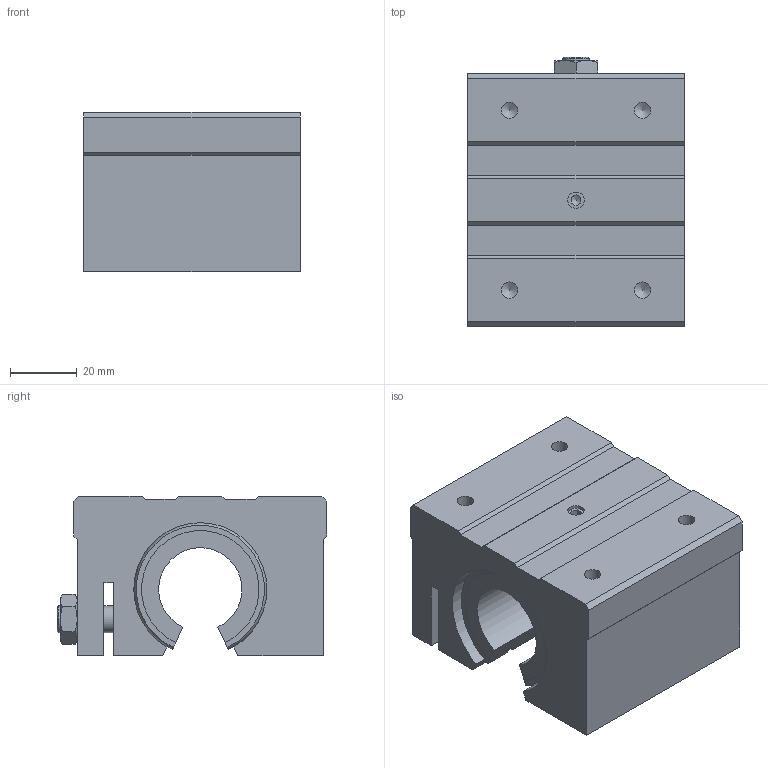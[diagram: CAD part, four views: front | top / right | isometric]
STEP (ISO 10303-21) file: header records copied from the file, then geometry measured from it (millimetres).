
FILE_DESCRIPTION((''),'2;1');
FILE_NAME('D:\製品 (図面)\カタログ用3D\GTA25H.stp','2010-06-07T16:12:16',('Tsuchiya'),(''),'Autodesk Inventor 10','Autodesk Inventor 10','');
FILE_SCHEMA(('AUTOMOTIVE_DESIGN { 1 0 10303 214 1 1 1 1 }'));
Length unit declared in the file: millimetre
Products named in the file (1): GTA25H
Bounding box: 65 x 81 x 48 mm (x, y, z)
Volume: 181996.2 mm3; surface area: 32026.7 mm2
Topology: 1 solids, 1 shells, 101 faces, 274 edges, 174 vertices
Faces by surface type: plane 57, cylinder 17, cone 15, bspline 10, torus 2
Full cylindrical faces by diameter (mm): 8 x2
Entity records: 3114 total; most frequent: CARTESIAN_POINT 778, ORIENTED_EDGE 498, DIRECTION 452, EDGE_CURVE 249, VERTEX_POINT 163, AXIS2_PLACEMENT_3D 151, VECTOR 150, LINE 150
